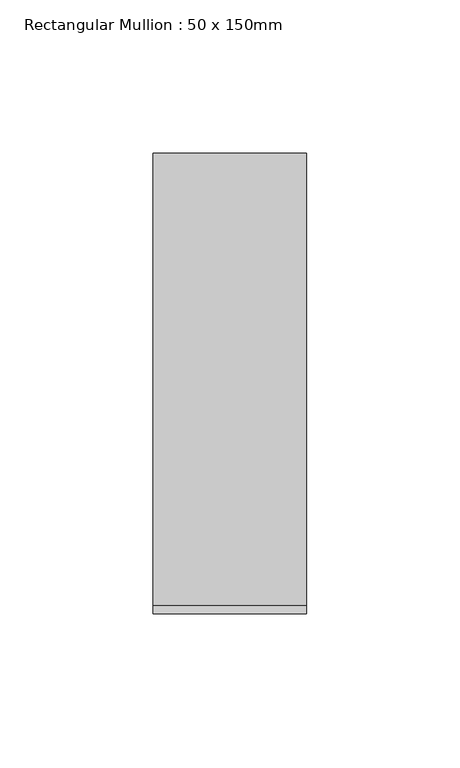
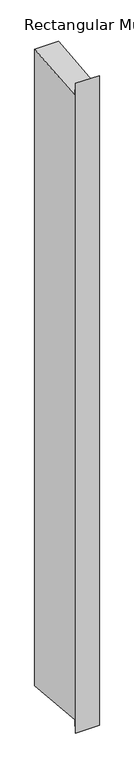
"""IFC4 building model written with IfcOpenShell, lengths in millimetres: member geometry, Rectangular Mullion : 50 x 150mm."""

import ifcopenshell
import ifcopenshell.guid

model = None  # the IFC model being written
_history = None  # IfcOwnerHistory: only IFC2X3 demands one
_inside = {}  # id of a spatial element -> (the spatial element, [elements in it])
_under = {}  # id of a project, library or spatial element -> (it, [spatial elements below it])
_declared = {}  # id of a project -> (the project, [libraries it declares])
_typed = {}  # id of a type object -> (the type object, [elements of that type])
_made_of = {}  # id of a material, layer set ... -> (it, [elements and type objects made of it])


def new_model(schema):
    """Start an empty IFC model of exactly this schema.

    Asked for "IFC4X3", IfcOpenShell would pick the latest addendum, in which some entities
    have other attributes; the version numbers below select the first issue.
    IFC2X3 requires an IfcOwnerHistory on every rooted entity: one is made here for all.
    """
    global model, _history
    if schema == "IFC4X3":
        model = ifcopenshell.file(schema_version=(4, 3, 0, 0))
    else:
        model = ifcopenshell.file(schema=schema)
    _inside.clear()
    _under.clear()
    _declared.clear()
    _typed.clear()
    _made_of.clear()
    _history = None
    if model.schema == "IFC2X3":
        org = make("IfcOrganization", Name="unknown")
        user = make(
            "IfcPersonAndOrganization",
            ThePerson=make("IfcPerson", FamilyName="unknown"),
            TheOrganization=org,
        )
        app = make(
            "IfcApplication",
            ApplicationDeveloper=org,
            Version="unknown",
            ApplicationFullName="unknown",
            ApplicationIdentifier="unknown",
        )
        _history = make(
            "IfcOwnerHistory",
            OwningUser=user,
            OwningApplication=app,
            ChangeAction="ADDED",
            CreationDate=0,
        )
    return model


def make(cls, **values):
    """One entity of the class cls with the attributes given. An attribute that is None is left unset."""
    return model.create_entity(
        cls, **{name: value for name, value in values.items() if value is not None}
    )


def rooted(cls, **values):
    """An entity with a GlobalId (a new one), such as an element, a storey or a relation."""
    return make(cls, GlobalId=ifcopenshell.guid.new(), OwnerHistory=_history, **values)


def si_unit(unit_type, name, prefix=None):
    """IfcSIUnit, for example si_unit("LENGTHUNIT", "METRE", prefix="MILLI")."""
    return make("IfcSIUnit", UnitType=unit_type, Prefix=prefix, Name=name)


def assignment(units):
    """IfcUnitAssignment: the units of a project."""
    return None if units is None else make("IfcUnitAssignment", Units=units)


def point(xyz):
    """IfcCartesianPoint."""
    return None if xyz is None else make("IfcCartesianPoint", Coordinates=xyz)


def direction(xyz):
    """IfcDirection."""
    return None if xyz is None else make("IfcDirection", DirectionRatios=xyz)


def frame(location, z_axis=None, x_axis=None):
    """IfcAxis2Placement3D, a coordinate frame: its origin and axes. An axis left out is left unset."""
    return make(
        "IfcAxis2Placement3D",
        Location=point(location),
        Axis=direction(z_axis),
        RefDirection=direction(x_axis),
    )


def origin():
    """The frame at (0, 0, 0) with its axes left unset."""
    return frame((0.0, 0.0, 0.0))


def place(relative_to, where):
    """IfcLocalPlacement: puts the frame where relative to a parent placement (None: the world)."""
    return make(
        "IfcLocalPlacement", PlacementRelTo=relative_to, RelativePlacement=where
    )


def context(
    kind, dimensions, precision=None, world=None, true_north=None, identifier=None
):
    """IfcGeometricRepresentationContext, for example the 3D "Model" context."""
    return make(
        "IfcGeometricRepresentationContext",
        ContextIdentifier=identifier,
        ContextType=kind,
        CoordinateSpaceDimension=dimensions,
        Precision=precision,
        WorldCoordinateSystem=world,
        TrueNorth=true_north,
    )


def project(units=None, contexts=None):
    """IfcProject with its units and contexts."""
    return rooted(
        "IfcProject",
        Name="project",
        RepresentationContexts=contexts,
        UnitsInContext=assignment(units),
    )


def spatial(cls, under=None, at=None, **own):
    """A site, building, storey or space (cls), placed at a placement, below another one or the project."""
    s = rooted(cls, ObjectPlacement=at, **own)
    if under is not None:
        _under.setdefault(under.id(), (under, []))[1].append(s)
    return s


def polyline(points):
    """IfcPolyline through the points."""
    return make("IfcPolyline", Points=[point(p) for p in points])


def outline(outer, holes=None, kind="AREA"):
    """IfcArbitraryClosedProfileDef: a profile drawn as a closed curve; with holes, ...WithVoids."""
    if holes is None:
        return make("IfcArbitraryClosedProfileDef", ProfileType=kind, OuterCurve=outer)
    return make(
        "IfcArbitraryProfileDefWithVoids",
        ProfileType=kind,
        OuterCurve=outer,
        InnerCurves=holes,
    )


def extrude(swept, where, along, depth):
    """IfcExtrudedAreaSolid: the profile swept, set in the frame where, extruded along a direction by depth."""
    return make(
        "IfcExtrudedAreaSolid",
        SweptArea=swept,
        Position=where,
        ExtrudedDirection=direction(along),
        Depth=depth,
    )


def shape(context_of_items, identifier, shape_type, items):
    """IfcShapeRepresentation: the items that make up one representation, for example the "Body"."""
    return make(
        "IfcShapeRepresentation",
        ContextOfItems=context_of_items,
        RepresentationIdentifier=identifier,
        RepresentationType=shape_type,
        Items=items,
    )


def source(mapping_origin, context_of_items, identifier, shape_type, items):
    """IfcRepresentationMap: a shape defined once, which mapped items show again and again."""
    return make(
        "IfcRepresentationMap",
        MappingOrigin=mapping_origin,
        MappedRepresentation=shape(context_of_items, identifier, shape_type, items),
    )


def transform(
    local_origin,
    x_axis=None,
    y_axis=None,
    z_axis=None,
    scale=None,
    scale2=None,
    scale3=None,
    uniform=True,
):
    """IfcCartesianTransformationOperator3D, or its non-uniform kind. x_axis, y_axis, z_axis: its Axis1, 2, 3."""
    if uniform:
        return make(
            "IfcCartesianTransformationOperator3D",
            Axis1=direction(x_axis),
            Axis2=direction(y_axis),
            LocalOrigin=point(local_origin),
            Scale=scale,
            Axis3=direction(z_axis),
        )
    return make(
        "IfcCartesianTransformationOperator3DnonUniform",
        Axis1=direction(x_axis),
        Axis2=direction(y_axis),
        LocalOrigin=point(local_origin),
        Scale=scale,
        Axis3=direction(z_axis),
        Scale2=scale2,
        Scale3=scale3,
    )


def mapped(mapping_source, mapping_target):
    """IfcMappedItem: shows the shape of a source again, moved by a transform."""
    return make(
        "IfcMappedItem", MappingSource=mapping_source, MappingTarget=mapping_target
    )


def made_of(thing, what):
    """Note that an element or type object is made of a material, layer set ...; save() writes the relation."""
    if what is not None:
        _made_of.setdefault(what.id(), (what, []))[1].append(thing)
    return thing


def element(
    cls,
    number,
    at=None,
    inside=None,
    cuts=None,
    type_object=None,
    material=None,
    context=None,
    identifier="Body",
    shape_type=None,
    held_by="IfcProductDefinitionShape",
    body=None,
    shapes=None,
    **own,
):
    """One element of the class cls, such as IfcWall. Its Tag is "e" and its number.

    at: its placement. inside: the storey or other place that contains it. cuts: it is an
    opening in that element (IfcRelVoidsElement). A single representation is given by context,
    identifier, shape_type and body (its items); several are given by shapes. held_by: the class
    of the entity that holds the representations. save() writes the other relations.
    """
    e = rooted(cls, Tag="e%d" % number, ObjectPlacement=at, **own)
    if body is not None:
        shapes = [shape(context, identifier, shape_type, body)]
    if shapes is not None:
        e.Representation = make(held_by, Representations=shapes)
    if inside is not None:
        _inside.setdefault(inside.id(), (inside, []))[1].append(e)
    if cuts is not None:
        rooted(
            "IfcRelVoidsElement", RelatingBuildingElement=cuts, RelatedOpeningElement=e
        )
    if type_object is not None:
        _typed.setdefault(type_object.id(), (type_object, []))[1].append(e)
    return made_of(e, material)


def aggregate(whole, parts):
    """IfcRelAggregates: a whole, such as a stair, and the parts it consists of."""
    return rooted("IfcRelAggregates", RelatingObject=whole, RelatedObjects=parts)


def save(model, path):
    """Write the relations noted so far, then the file.

    IfcRelAggregates (storeys below a building ...), IfcRelContainedInSpatialStructure (elements
    in a storey), IfcRelDefinesByType, IfcRelAssociatesMaterial and IfcRelDeclares: one each for
    every whole, place, type object, material and project.
    """
    for whole, parts in _under.values():
        aggregate(whole, parts)
    for where, things in _inside.values():
        rooted(
            "IfcRelContainedInSpatialStructure",
            RelatedElements=things,
            RelatingStructure=where,
        )
    for kind, things in _typed.values():
        rooted("IfcRelDefinesByType", RelatedObjects=things, RelatingType=kind)
    for what, things in _made_of.values():
        rooted("IfcRelAssociatesMaterial", RelatedObjects=things, RelatingMaterial=what)
    for by, libraries in _declared.values():
        rooted("IfcRelDeclares", RelatingContext=by, RelatedDefinitions=libraries)
    model.write(path)


def rectangular_mullion_50_x_150mm_ecf62494(model_context):
    return source(origin(), model_context, "Body", "SweptSolid", [
        extrude(outline(polyline([(-75.0, 21.4461925), (-72.3000691, -6.9796812), (75.0, 7.011094), (75.0, -1415.1576008), (-72.3000691, -1401.1668256), (-75.0, -1429.5926993), (-75.0, 21.4461925)])), frame((-50.0, 0.0, 0.0), z_axis=(1.0, 0.0, 0.0), x_axis=(0.0, 1.0, 0.0)), (0.0, 0.0, 1.0), 50.0),
    ])


if __name__ == "__main__":
    model = new_model("IFC4")
    model_context = context("Model", 3, world=origin())
    ifc_project = project(units=[si_unit("LENGTHUNIT", "METRE", prefix="MILLI")], contexts=[model_context])
    site = spatial("IfcSite", under=ifc_project)
    building = spatial("IfcBuilding", under=site)
    placement = place(None, origin())
    rectangular_mullion_50_x_150mm_shape = rectangular_mullion_50_x_150mm_ecf62494(model_context)
    element("IfcMember", 1, ObjectType="Rectangular Mullion : 50 x 150mm", at=placement, inside=building, context=model_context, shape_type="MappedRepresentation", body=[
        mapped(rectangular_mullion_50_x_150mm_shape, transform((0.0, 0.0, 0.0), x_axis=(1.0, 0.0, 0.0), y_axis=(0.0, 1.0, 0.0), z_axis=(0.0, 0.0, 1.0))),
    ])
    save(model, "model.ifc")
